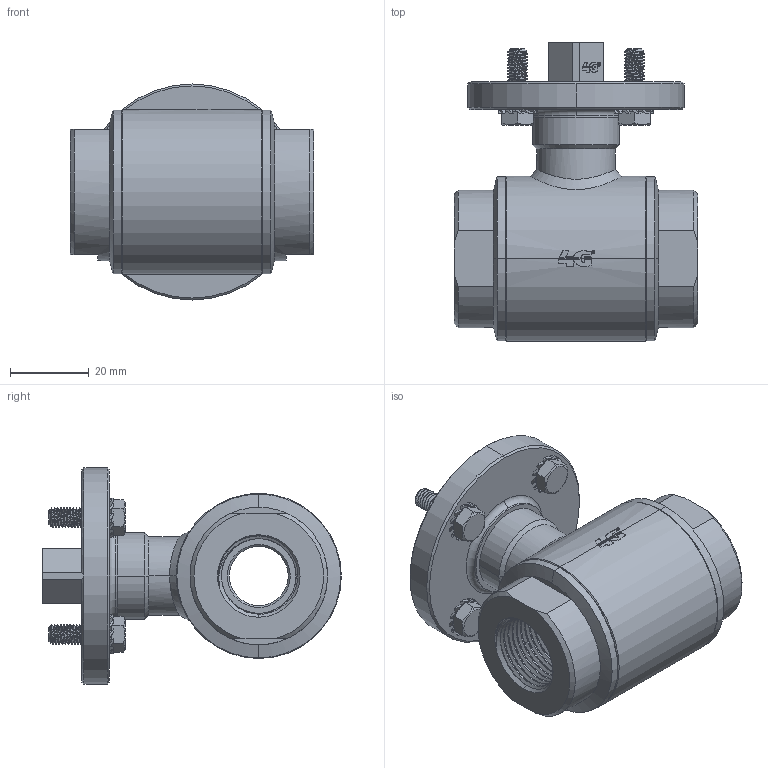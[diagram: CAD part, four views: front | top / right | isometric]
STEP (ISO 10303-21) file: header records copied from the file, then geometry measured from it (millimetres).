
FILE_DESCRIPTION((''),'2;1');
FILE_NAME('1330016141F_SW0002','2026-10-15T08:50:26',('tecnico2'),('CDM Tecnoconsulting'),'CREO PARAMETRIC BY PTC INC, 2024063','CREO PARAMETRIC BY PTC INC, 2024063','');
FILE_SCHEMA(('CONFIG_CONTROL_DESIGN','SHAPE_APPEARANCE_LAYERS_GROUPS'));
Products named in the file (1): 1330016141F_SW0002
Bounding box: 62 x 76 x 55 mm (x, y, z)
Volume: 82751.7 mm3; surface area: 29939.1 mm2
Topology: 1 solids, 1 shells, 1359 faces, 3786 edges, 2458 vertices
Faces by surface type: plane 488, cylinder 410, cone 147, bspline 133, extrusion 111, torus 60, sphere 10
Entity records: 107043 total; most frequent: CARTESIAN_POINT 63283, ORIENTED_EDGE 7552, DIRECTION 5346, PRESENTATION_STYLE_ASSIGNMENT 3813, STYLED_ITEM 3777, CURVE_STYLE 3776, EDGE_CURVE 3776, VERTEX_POINT 2458
